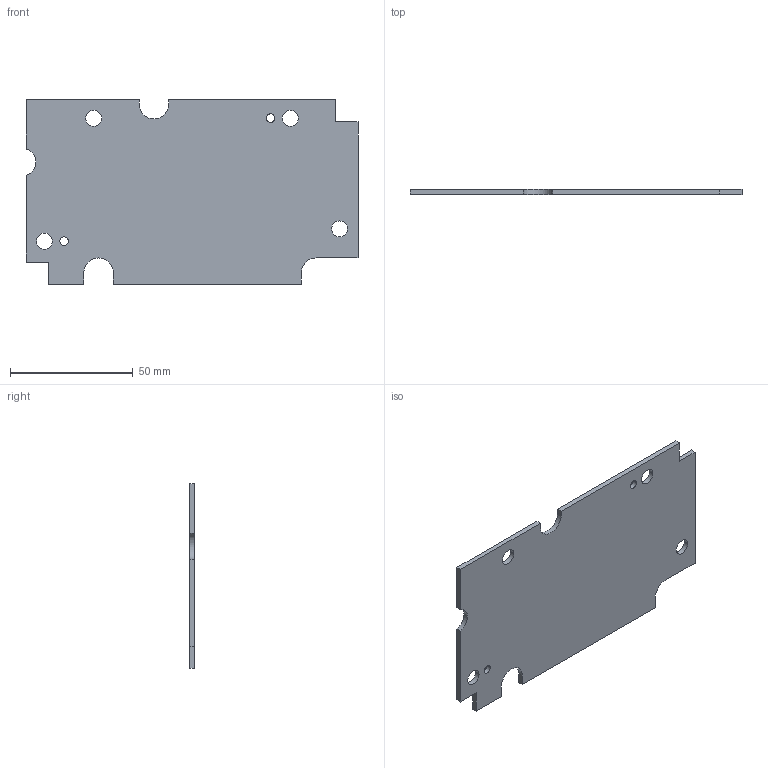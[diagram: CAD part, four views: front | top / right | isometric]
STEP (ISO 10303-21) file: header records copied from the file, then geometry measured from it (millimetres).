
FILE_DESCRIPTION((''),'2;1');
FILE_NAME('HEATSPREADER_SOC_BOTTOM_15_1','2020-08-04T',('kym12'),(''),'CREO PARAMETRIC BY PTC INC, 2017170','CREO PARAMETRIC BY PTC INC, 2017170','');
FILE_SCHEMA(('AUTOMOTIVE_DESIGN { 1 0 10303 214 1 1 1 1 }'));
Length unit declared in the file: millimetre
Products named in the file (1): HEATSPREADER_SOC_BOTTOM_15_1
Bounding box: 135 x 2 x 75 mm (x, y, z)
Volume: 18700.1 mm3; surface area: 19803.1 mm2
Topology: 1 solids, 1 shells, 35 faces, 99 edges, 66 vertices
Faces by surface type: plane 19, cylinder 16
Entity records: 1289 total; most frequent: CARTESIAN_POINT 202, DIRECTION 201, ORIENTED_EDGE 198, EDGE_CURVE 99, VECTOR 67, LINE 67, AXIS2_PLACEMENT_3D 67, VERTEX_POINT 66
